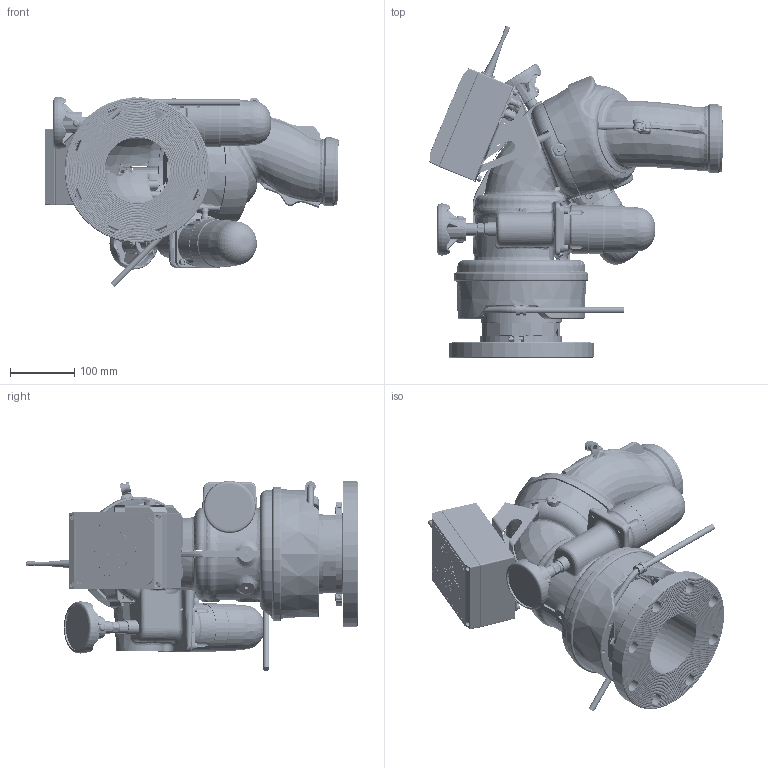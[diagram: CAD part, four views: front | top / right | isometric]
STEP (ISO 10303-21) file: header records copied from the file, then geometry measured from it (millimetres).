
FILE_DESCRIPTION (( 'STEP AP203' ), '1' );
FILE_NAME ('Y4-E21A_Horizontal.STEP', '2014-07-03T17:50:12', ( '' ), ( '' ), 'SwSTEP 2.0', 'SolidWorks 2014', '' );
FILE_SCHEMA (( 'CONFIG_CONTROL_DESIGN' ));
Products named in the file (1): Y4-E21A_Horizontal
Bounding box: 456.1 x 516.27 x 295.8 mm (x, y, z)
Surface area: 1085013.4 mm2 (no closed solid volume)
Topology: 0 solids, 249 shells, 2959 faces, 12476 edges, 9538 vertices
Faces by surface type: plane 870, cylinder 677, bspline 564, torus 507, cone 307, sphere 34
Entity records: 200690 total; most frequent: CARTESIAN_POINT 108102, ORIENTED_EDGE 18099, DIRECTION 16802, EDGE_CURVE 12442, VERTEX_POINT 9527, AXIS2_PLACEMENT_3D 5804, VECTOR 5194, LINE 5194
